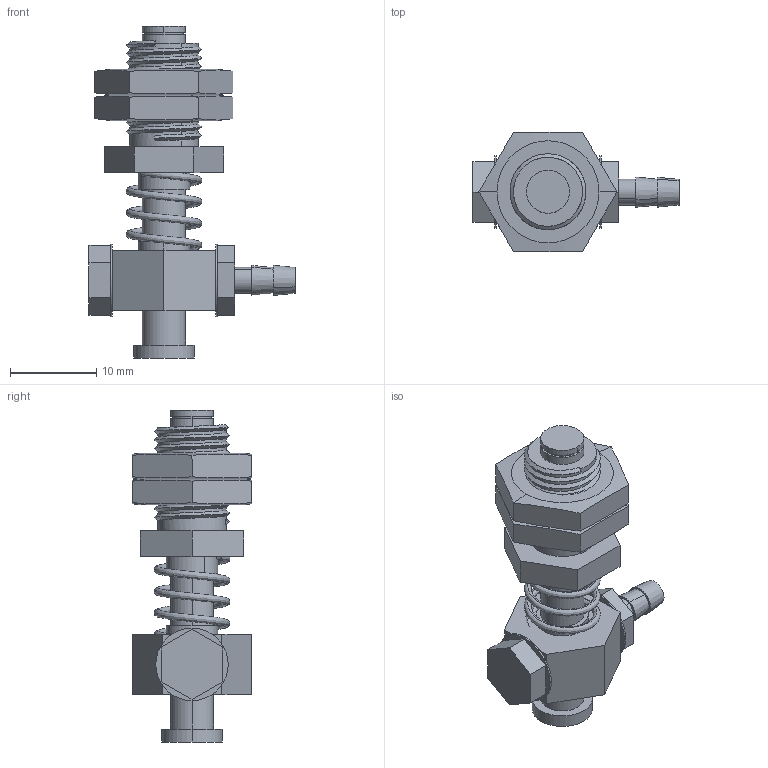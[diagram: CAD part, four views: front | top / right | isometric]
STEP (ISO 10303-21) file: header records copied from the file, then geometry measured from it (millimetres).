
FILE_DESCRIPTION (( 'STEP AP214' ), '1' );
FILE_NAME ('VFST-5M10.STEP', '2019-11-15T09:27:20', ( '微软用户' ), ( '微软中国' ), 'SwSTEP 2.0', 'SolidWorks 2016', '' );
FILE_SCHEMA (( 'AUTOMOTIVE_DESIGN' ));
Length unit declared in the file: millimetre
Products named in the file (1): VFST-5M10
Bounding box: 23.9 x 13.86 x 38.5 mm (x, y, z)
Volume: 3034.1 mm3; surface area: 4249.7 mm2
Topology: 10 solids, 10 shells, 187 faces, 451 edges, 296 vertices
Faces by surface type: cylinder 89, plane 76, cone 12, bspline 10
Entity records: 11712 total; most frequent: CARTESIAN_POINT 5445, ORIENTED_EDGE 902, DIRECTION 769, EDGE_CURVE 451, VERTEX_POINT 296, AXIS2_PLACEMENT_3D 281, EDGE_LOOP 215, VECTOR 207
